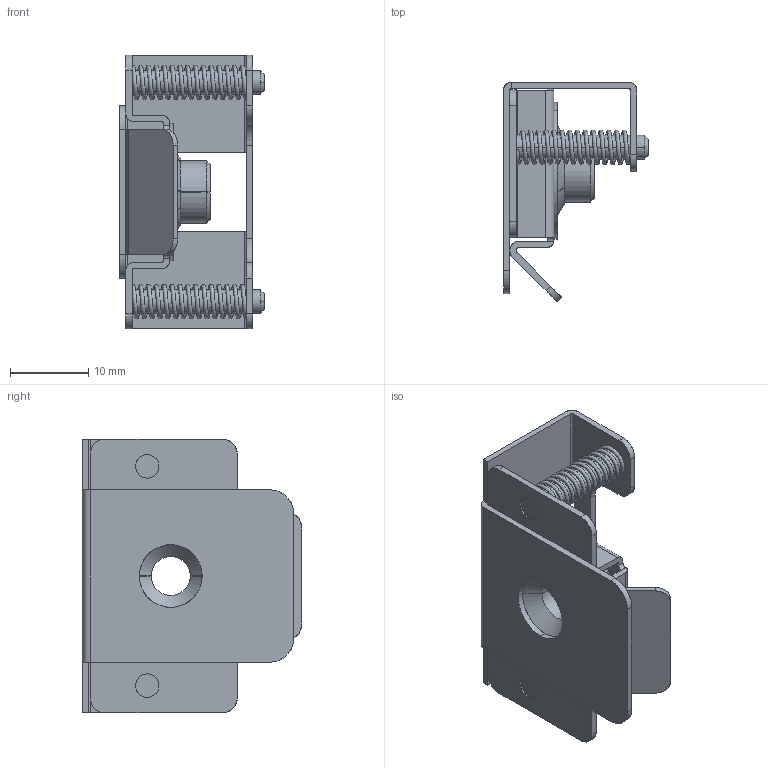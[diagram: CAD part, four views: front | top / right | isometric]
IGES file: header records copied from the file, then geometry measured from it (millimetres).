
Start section: SolidWorks IGES file using analytic representation for surfaces
Bounding box: 18.5 x 28.03 x 35 mm (x, y, z)
Surface area: 6975.1 mm2 (no closed solid volume)
Topology: 0 solids, 0 shells, 162 faces, 2013 edges, 2013 vertices
Faces by surface type: revolution 81, bspline 81
